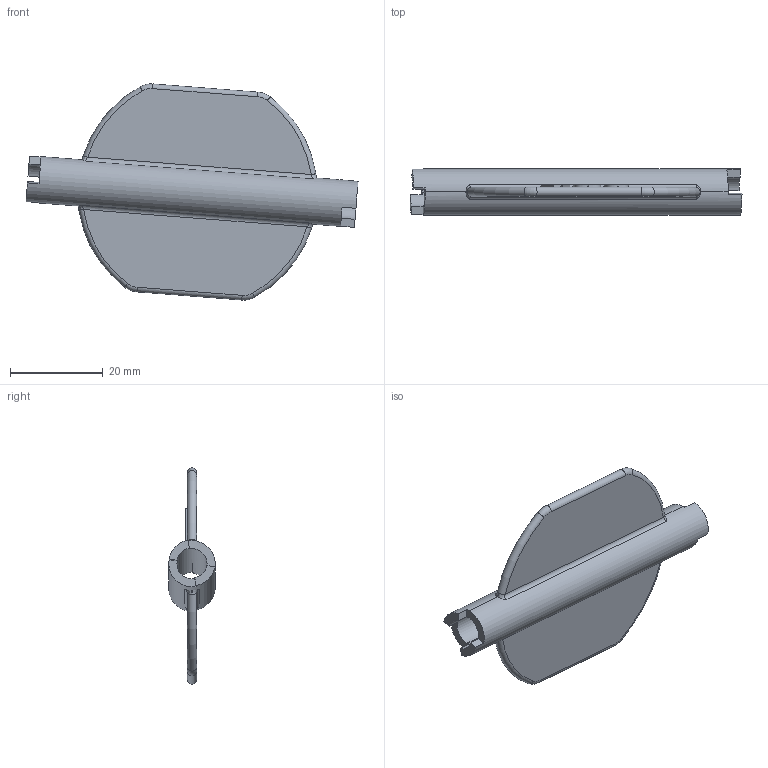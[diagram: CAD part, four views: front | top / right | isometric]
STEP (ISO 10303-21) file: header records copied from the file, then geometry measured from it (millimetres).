
FILE_DESCRIPTION((''),'2;1');
FILE_NAME('0000237118_PRT','2025-11-12T18:36:05',('Wyndorps'),(''),'CREO PARAMETRIC BY PTC INC, 2025010','CREO PARAMETRIC BY PTC INC, 2025010','');
FILE_SCHEMA(('CONFIG_CONTROL_DESIGN'));
Length unit declared in the file: millimetre
Products named in the file (1): 0000237118_PRT
Bounding box: 71.57 x 10 x 46.57 mm (x, y, z)
Volume: 6029.7 mm3; surface area: 6585.3 mm2
Topology: 1 solids, 1 shells, 105 faces, 282 edges, 184 vertices
Faces by surface type: plane 57, extrusion 18, cylinder 14, bspline 8, torus 8
Entity records: 3986 total; most frequent: CARTESIAN_POINT 1427, ORIENTED_EDGE 564, DIRECTION 446, EDGE_CURVE 282, VERTEX_POINT 184, VECTOR 176, LINE 158, AXIS2_PLACEMENT_3D 135
